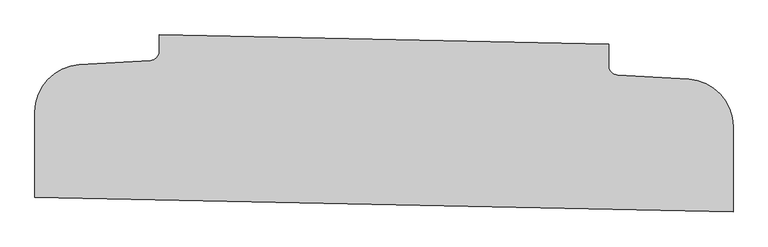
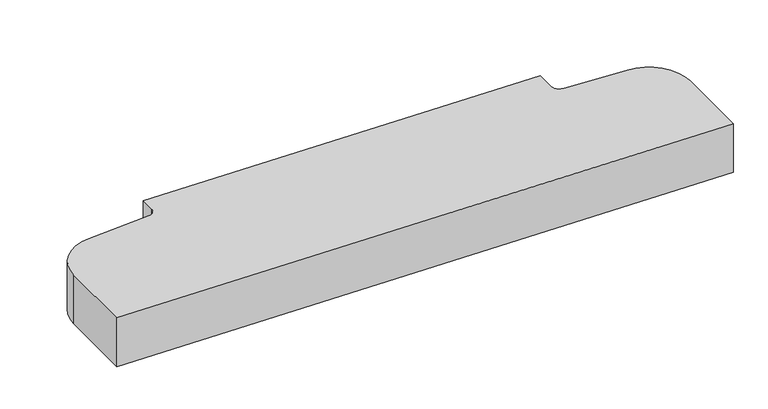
"""IFC4 building model written with IfcOpenShell, lengths in millimetres: proxy geometry, Diaphragm-Int.sat."""

from ifc_helpers import new_model, si_unit, point, frame, frame_2d, origin, place, context, project, spatial, polyline, circle_curve, trimmed, segment, composite_curve, outline, extrude, source, transform, mapped, element, save


def generic_models_4f76e8b5(model_context):
    return source(origin(), model_context, "Body", "SweptSolid", [
        extrude(outline(composite_curve([segment(trimmed(circle_curve(frame_2d((-3022.6, 1065.3275791)), 203.2), [point((-3225.8, 1065.3275791))], [point((-3034.6738676, 1268.1685555))], False, "CARTESIAN"), True, "CONTINUOUS"), segment(polyline([(-3034.6738676, 1268.1685555), (-2728.2361498, 1286.4088958)]), True, "CONTINUOUS"), segment(trimmed(circle_curve(frame_2d((-2730.5, 1324.4415789)), 38.1), [point((-2728.2361498, 1286.4088958))], [point((-2692.4, 1324.4415789))], True, "CARTESIAN"), True, "CONTINUOUS"), segment(polyline([(-2692.4, 1324.4415789), (-2692.4, 1396.492), (-762.0, 1355.9208814), (-762.0, 1261.4495789)]), True, "CONTINUOUS"), segment(trimmed(circle_curve(frame_2d((-723.9, 1261.4495789)), 38.1), [point((-762.0, 1261.4495789))], [point((-726.1638502, 1223.4168958))], True, "CARTESIAN"), True, "CONTINUOUS"), segment(polyline([(-726.1638502, 1223.4168958), (-419.7261324, 1205.1765555)]), True, "CONTINUOUS"), segment(trimmed(circle_curve(frame_2d((-431.8, 1002.3355791)), 203.2), [point((-419.7261324, 1205.1765555))], [point((-228.6, 1002.3355791))], False, "CARTESIAN"), True, "CONTINUOUS"), segment(polyline([(-228.6, 1002.3355791), (-228.6, 635.0), (-3225.8, 697.992), (-3225.8, 1065.3275791)]), True, "CONTINUOUS")], self_intersect=False)), frame((0.0, 0.0, -127.0), z_axis=(0.0, 0.0, 1.0), x_axis=(1.0, 0.0, 0.0)), (0.0, 0.0, 1.0), 254.0),
    ])


if __name__ == "__main__":
    model = new_model("IFC4")
    model_context = context("Model", 3, world=origin())
    ifc_project = project(units=[si_unit("LENGTHUNIT", "METRE", prefix="MILLI")], contexts=[model_context])
    site = spatial("IfcSite", under=ifc_project)
    building = spatial("IfcBuilding", under=site)
    placement = place(None, origin())
    generic_models_shape = generic_models_4f76e8b5(model_context)
    element("IfcBuildingElementProxy", 1, Name="Diaphragm-Int.sat", ObjectType="Diaphragm-Int.sat", at=placement, inside=building, context=model_context, shape_type="MappedRepresentation", body=[
        mapped(generic_models_shape, transform((0.0, 0.0, 0.0), x_axis=(1.0, 0.0, 0.0), y_axis=(0.0, 1.0, 0.0), z_axis=(0.0, 0.0, 1.0))),
    ])
    save(model, "model.ifc")
